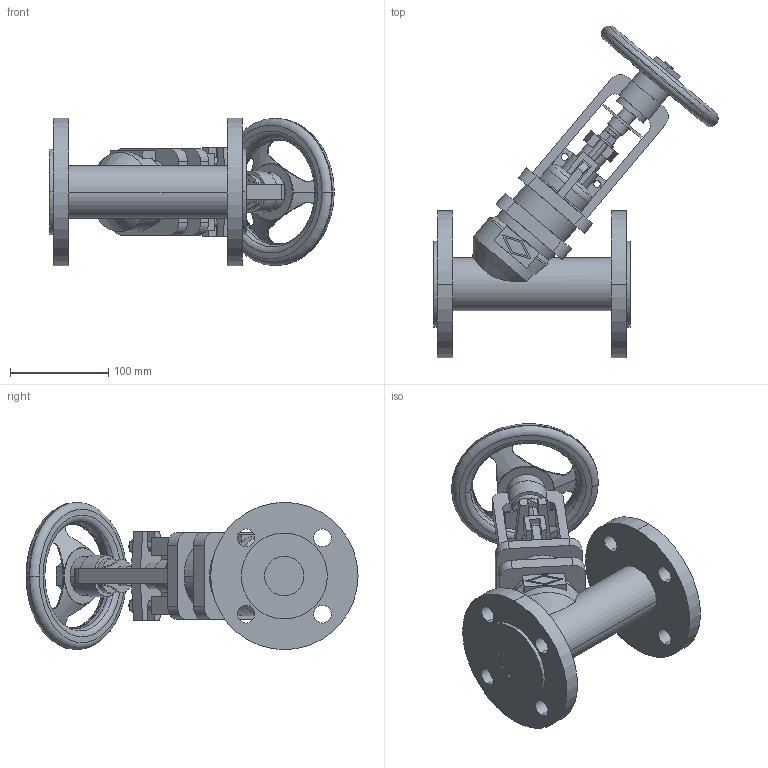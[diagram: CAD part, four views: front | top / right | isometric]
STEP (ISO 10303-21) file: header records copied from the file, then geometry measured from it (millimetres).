
FILE_DESCRIPTION(('OneSpaceDesigner STEP Export'),'2;1');
FILE_NAME('c000004394.stp','2010-05-07T 9:36:36',(''),(''),'OneSpace Designer STEP processor for AP214 (Solid Model)','OneSpace Modeling 15.50B 03-Nov-2007 (C) CoCreate Software GmbH','');
FILE_SCHEMA(('AUTOMOTIVE_DESIGN { 1 0 10303 214 1 1 1 1 }'));
Length unit declared in the file: millimetre
Products named in the file (1): 1
Bounding box: 289.68 x 338.03 x 150 mm (x, y, z)
Volume: 1798319.6 mm3; surface area: 240725.9 mm2
Topology: 1 solids, 1 shells, 300 faces, 808 edges, 531 vertices
Faces by surface type: plane 140, cylinder 115, torus 35, cone 10
Entity records: 12023 total; most frequent: CARTESIAN_POINT 2491, ORIENTED_EDGE 1608, DIRECTION 1308, EDGE_CURVE 804, VERTEX_POINT 527, AXIS2_PLACEMENT_3D 448, VECTOR 412, LINE 412
